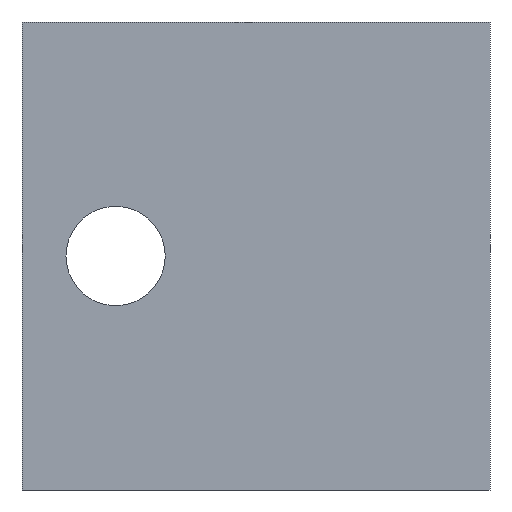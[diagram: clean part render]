
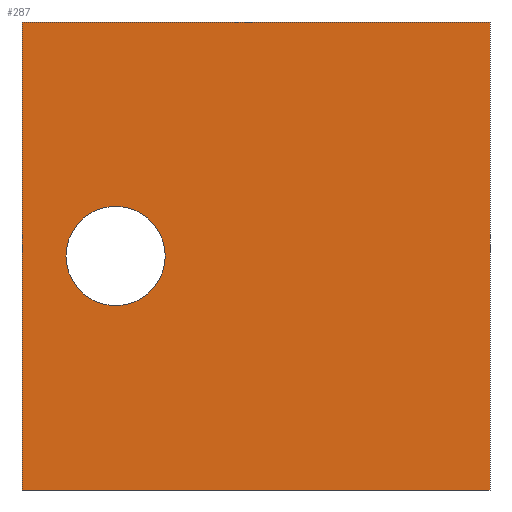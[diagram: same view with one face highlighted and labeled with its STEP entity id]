
A CAD part, front view. The second image highlights one B-rep face of the part: STEP entity #287.
In plain terms, the highlighted planar face has unit normal (0, -1, 0).
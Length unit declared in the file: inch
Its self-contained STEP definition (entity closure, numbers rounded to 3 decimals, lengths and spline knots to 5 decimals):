
#1 = CARTESIAN_POINT ( 'NONE',  ( -0.85, 0., -0.24079 ) ) ;
#14 = AXIS2_PLACEMENT_3D ( 'NONE', #418, #108, #430 ) ;
#18 = DIRECTION ( 'NONE',  ( -1., 0., 0. ) ) ;
#21 = LINE ( 'NONE', #117, #298 ) ;
#28 = VERTEX_POINT ( 'NONE', #316 ) ;
#31 = CARTESIAN_POINT ( 'NONE',  ( -1., 0., -0.53629 ) ) ;
#33 = PLANE ( 'NONE',  #14 ) ;
#52 = DIRECTION ( 'NONE',  ( 0., 0., 1. ) ) ;
#58 = EDGE_CURVE ( 'NONE', #28, #355, #21, .T. ) ;
#62 = ORIENTED_EDGE ( 'NONE', *, *, #435, .T. ) ;
#80 = EDGE_LOOP ( 'NONE', ( #353, #371, #408, #83 ) ) ;
#82 = DIRECTION ( 'NONE',  ( 1., 0., 0. ) ) ;
#83 = ORIENTED_EDGE ( 'NONE', *, *, #89, .F. ) ;
#89 = EDGE_CURVE ( 'NONE', #355, #232, #325, .T. ) ;
#93 = CARTESIAN_POINT ( 'NONE',  ( -1., 0., 0.21371 ) ) ;
#108 = DIRECTION ( 'NONE',  ( 0., 1., 0. ) ) ;
#117 = CARTESIAN_POINT ( 'NONE',  ( -1., 0., -0.53629 ) ) ;
#118 = FACE_OUTER_BOUND ( 'NONE', #80, .T. ) ;
#119 = VECTOR ( 'NONE', #151, 39.37008 ) ;
#129 = ORIENTED_EDGE ( 'NONE', *, *, #437, .T. ) ;
#137 = CARTESIAN_POINT ( 'NONE',  ( -1., 0., 0.21371 ) ) ;
#150 = CARTESIAN_POINT ( 'NONE',  ( -0.25, 0., -0.53629 ) ) ;
#151 = DIRECTION ( 'NONE',  ( 0., 0., -1. ) ) ;
#172 = CARTESIAN_POINT ( 'NONE',  ( -0.85, 0., -0.16129 ) ) ;
#174 = DIRECTION ( 'NONE',  ( 0., 1., 0. ) ) ;
#179 = VERTEX_POINT ( 'NONE', #1 ) ;
#181 = CARTESIAN_POINT ( 'NONE',  ( -0.85, 0., -0.16129 ) ) ;
#182 = DIRECTION ( 'NONE',  ( 0., 1., 0. ) ) ;
#184 = DIRECTION ( 'NONE',  ( 0., 0., 1. ) ) ;
#194 = EDGE_CURVE ( 'NONE', #352, #28, #382, .T. ) ;
#211 = EDGE_LOOP ( 'NONE', ( #62, #129 ) ) ;
#217 = LINE ( 'NONE', #150, #119 ) ;
#222 = CIRCLE ( 'NONE', #265, 0.0795 ) ;
#232 = VERTEX_POINT ( 'NONE', #345 ) ;
#237 = VERTEX_POINT ( 'NONE', #285 ) ;
#260 = CARTESIAN_POINT ( 'NONE',  ( -0.25, 0., -0.53629 ) ) ;
#264 = AXIS2_PLACEMENT_3D ( 'NONE', #181, #182, #184 ) ;
#265 = AXIS2_PLACEMENT_3D ( 'NONE', #172, #174, #52 ) ;
#274 = FACE_BOUND ( 'NONE', #211, .T. ) ;
#281 = DIRECTION ( 'NONE',  ( 0., 0., 1. ) ) ;
#285 = CARTESIAN_POINT ( 'NONE',  ( -0.85, 0., -0.08179 ) ) ;
#287 = ADVANCED_FACE ( 'NONE', ( #274, #118 ), #33, .F. ) ;
#292 = CIRCLE ( 'NONE', #264, 0.0795 ) ;
#298 = VECTOR ( 'NONE', #281, 39.37008 ) ;
#316 = CARTESIAN_POINT ( 'NONE',  ( -1., 0., -0.53629 ) ) ;
#325 = LINE ( 'NONE', #93, #338 ) ;
#338 = VECTOR ( 'NONE', #82, 39.37008 ) ;
#345 = CARTESIAN_POINT ( 'NONE',  ( -0.25, 0., 0.21371 ) ) ;
#352 = VERTEX_POINT ( 'NONE', #260 ) ;
#353 = ORIENTED_EDGE ( 'NONE', *, *, #58, .F. ) ;
#355 = VERTEX_POINT ( 'NONE', #137 ) ;
#366 = EDGE_CURVE ( 'NONE', #232, #352, #217, .T. ) ;
#371 = ORIENTED_EDGE ( 'NONE', *, *, #194, .F. ) ;
#379 = VECTOR ( 'NONE', #18, 39.37008 ) ;
#382 = LINE ( 'NONE', #31, #379 ) ;
#408 = ORIENTED_EDGE ( 'NONE', *, *, #366, .F. ) ;
#418 = CARTESIAN_POINT ( 'NONE',  ( 0., 0., 0. ) ) ;
#430 = DIRECTION ( 'NONE',  ( 0., 0., 1. ) ) ;
#435 = EDGE_CURVE ( 'NONE', #237, #179, #222, .T. ) ;
#437 = EDGE_CURVE ( 'NONE', #179, #237, #292, .T. ) ;
